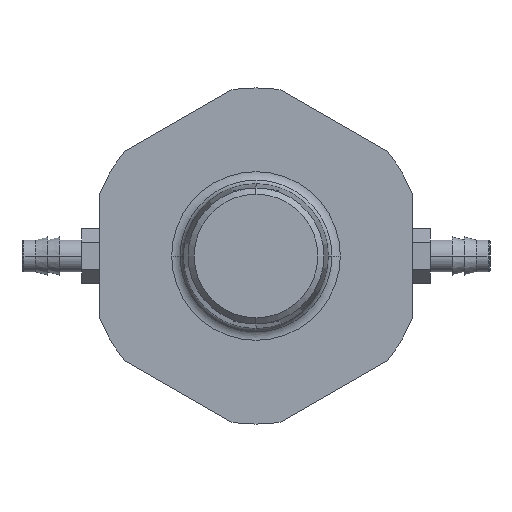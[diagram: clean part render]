
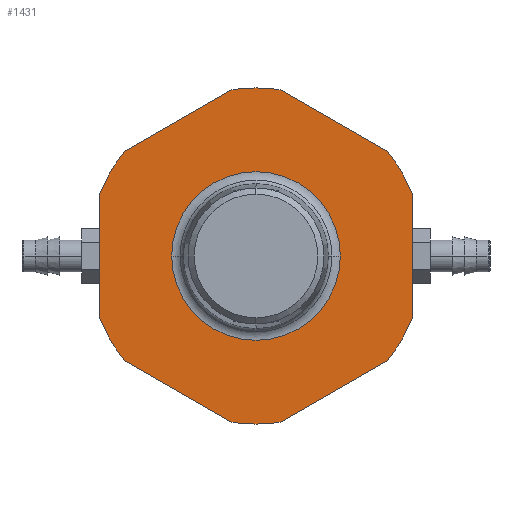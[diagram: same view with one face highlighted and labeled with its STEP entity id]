
A CAD part, left-side view. The second image highlights one B-rep face of the part: STEP entity #1431.
In plain terms, the highlighted planar face has unit normal (-1, 0, 0).
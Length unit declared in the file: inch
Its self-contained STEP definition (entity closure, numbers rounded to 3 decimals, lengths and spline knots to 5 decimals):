
#965=CARTESIAN_POINT('',(-2.875,0.,0.));
#966=DIRECTION('',(-1.,0.,0.));
#967=DIRECTION('',(0.,0.143,-0.99));
#968=AXIS2_PLACEMENT_3D('',#965,#966,#967);
#970=DIRECTION('',(0.,-0.866,-0.5));
#971=VECTOR('',#970,0.64952);
#972=CARTESIAN_POINT('',(-2.875,0.6875,-0.54127));
#973=LINE('',#972,#971);
#974=CARTESIAN_POINT('',(-2.875,0.,0.));
#975=DIRECTION('',(-1.,0.,0.));
#976=DIRECTION('',(0.,0.866,-0.5));
#977=AXIS2_PLACEMENT_3D('',#974,#975,#976);
#979=CARTESIAN_POINT('',(-2.875,0.,0.));
#980=DIRECTION('',(-1.,0.,0.));
#981=DIRECTION('',(0.,0.929,-0.371));
#982=AXIS2_PLACEMENT_3D('',#979,#980,#981);
#984=DIRECTION('',(0.,0.,-1.));
#985=VECTOR('',#984,0.64952);
#986=CARTESIAN_POINT('',(-2.875,0.8125,0.32476));
#987=LINE('',#986,#985);
#988=CARTESIAN_POINT('',(-2.875,0.,0.));
#989=DIRECTION('',(-1.,0.,0.));
#990=DIRECTION('',(0.,0.866,0.5));
#991=AXIS2_PLACEMENT_3D('',#988,#989,#990);
#993=CARTESIAN_POINT('',(-2.875,0.,0.));
#994=DIRECTION('',(-1.,0.,0.));
#995=DIRECTION('',(0.,0.786,0.619));
#996=AXIS2_PLACEMENT_3D('',#993,#994,#995);
#998=DIRECTION('',(0.,0.866,-0.5));
#999=VECTOR('',#998,0.64952);
#1000=CARTESIAN_POINT('',(-2.875,0.125,0.86603));
#1001=LINE('',#1000,#999);
#1002=CARTESIAN_POINT('',(-2.875,0.,0.));
#1003=DIRECTION('',(-1.,0.,0.));
#1004=DIRECTION('',(0.,0.,1.));
#1005=AXIS2_PLACEMENT_3D('',#1002,#1003,#1004);
#1007=CARTESIAN_POINT('',(-2.875,0.,0.));
#1008=DIRECTION('',(-1.,0.,0.));
#1009=DIRECTION('',(0.,-0.143,0.99));
#1010=AXIS2_PLACEMENT_3D('',#1007,#1008,#1009);
#1012=DIRECTION('',(0.,0.866,0.5));
#1013=VECTOR('',#1012,0.64952);
#1014=CARTESIAN_POINT('',(-2.875,-0.6875,0.54127));
#1015=LINE('',#1014,#1013);
#1016=CARTESIAN_POINT('',(-2.875,0.,0.));
#1017=DIRECTION('',(-1.,0.,0.));
#1018=DIRECTION('',(0.,-0.866,0.5));
#1019=AXIS2_PLACEMENT_3D('',#1016,#1017,#1018);
#1021=CARTESIAN_POINT('',(-2.875,0.,0.));
#1022=DIRECTION('',(-1.,0.,0.));
#1023=DIRECTION('',(0.,-0.929,0.371));
#1024=AXIS2_PLACEMENT_3D('',#1021,#1022,#1023);
#1026=DIRECTION('',(0.,0.,1.));
#1027=VECTOR('',#1026,0.64952);
#1028=CARTESIAN_POINT('',(-2.875,-0.8125,-0.32476));
#1029=LINE('',#1028,#1027);
#1030=CARTESIAN_POINT('',(-2.875,0.,0.));
#1031=DIRECTION('',(-1.,0.,0.));
#1032=DIRECTION('',(0.,-0.866,-0.5));
#1033=AXIS2_PLACEMENT_3D('',#1030,#1031,#1032);
#1035=CARTESIAN_POINT('',(-2.875,0.,0.));
#1036=DIRECTION('',(-1.,0.,0.));
#1037=DIRECTION('',(0.,-0.786,-0.619));
#1038=AXIS2_PLACEMENT_3D('',#1035,#1036,#1037);
#1040=DIRECTION('',(0.,-0.866,0.5));
#1041=VECTOR('',#1040,0.64952);
#1042=CARTESIAN_POINT('',(-2.875,-0.125,-0.86603));
#1043=LINE('',#1042,#1041);
#1044=CARTESIAN_POINT('',(-2.875,0.,0.));
#1045=DIRECTION('',(-1.,0.,0.));
#1046=DIRECTION('',(0.,0.,-1.));
#1047=AXIS2_PLACEMENT_3D('',#1044,#1045,#1046);
#1049=CARTESIAN_POINT('',(-2.875,0.,0.));
#1050=DIRECTION('',(1.,0.,0.));
#1051=DIRECTION('',(0.,0.,1.));
#1052=AXIS2_PLACEMENT_3D('',#1049,#1050,#1051);
#1054=CARTESIAN_POINT('',(-2.875,0.,0.));
#1055=DIRECTION('',(1.,0.,0.));
#1056=DIRECTION('',(0.,1.,0.));
#1057=AXIS2_PLACEMENT_3D('',#1054,#1055,#1056);
#1059=CARTESIAN_POINT('',(-2.875,0.,0.));
#1060=DIRECTION('',(1.,0.,0.));
#1061=DIRECTION('',(0.,-1.,0.));
#1062=AXIS2_PLACEMENT_3D('',#1059,#1060,#1061);
#1282=CARTESIAN_POINT('',(-2.875,0.,-0.875));
#1283=CARTESIAN_POINT('',(-2.875,-0.125,-0.86603));
#1284=VERTEX_POINT('',#1282);
#1285=VERTEX_POINT('',#1283);
#1286=CARTESIAN_POINT('',(-2.875,0.125,-0.86603));
#1287=VERTEX_POINT('',#1286);
#1292=CARTESIAN_POINT('',(-2.875,-0.6875,-0.54127));
#1293=VERTEX_POINT('',#1292);
#1294=CARTESIAN_POINT('',(-2.875,0.6875,-0.54127));
#1295=VERTEX_POINT('',#1294);
#1300=CARTESIAN_POINT('',(-2.875,-0.75777,-0.4375));
#1301=CARTESIAN_POINT('',(-2.875,-0.8125,-0.32476));
#1302=VERTEX_POINT('',#1300);
#1303=VERTEX_POINT('',#1301);
#1304=CARTESIAN_POINT('',(-2.875,0.75777,-0.4375));
#1305=VERTEX_POINT('',#1304);
#1306=CARTESIAN_POINT('',(-2.875,0.8125,-0.32476));
#1307=VERTEX_POINT('',#1306);
#1314=CARTESIAN_POINT('',(-2.875,-0.8125,0.32476));
#1315=VERTEX_POINT('',#1314);
#1316=CARTESIAN_POINT('',(-2.875,0.8125,0.32476));
#1317=VERTEX_POINT('',#1316);
#1324=CARTESIAN_POINT('',(-2.875,-0.75777,0.4375));
#1325=CARTESIAN_POINT('',(-2.875,-0.6875,0.54127));
#1326=VERTEX_POINT('',#1324);
#1327=VERTEX_POINT('',#1325);
#1328=CARTESIAN_POINT('',(-2.875,0.75777,0.4375));
#1329=VERTEX_POINT('',#1328);
#1330=CARTESIAN_POINT('',(-2.875,0.6875,0.54127));
#1331=VERTEX_POINT('',#1330);
#1338=CARTESIAN_POINT('',(-2.875,-0.125,0.86603));
#1339=VERTEX_POINT('',#1338);
#1340=CARTESIAN_POINT('',(-2.875,0.125,0.86603));
#1341=VERTEX_POINT('',#1340);
#1348=CARTESIAN_POINT('',(-2.875,0.,0.875));
#1349=VERTEX_POINT('',#1348);
#1354=CARTESIAN_POINT('',(-2.875,0.43896,0.));
#1356=VERTEX_POINT('',#1354);
#1360=CARTESIAN_POINT('',(-2.875,-0.43896,0.));
#1361=VERTEX_POINT('',#1360);
#1366=CARTESIAN_POINT('',(-2.875,0.,0.43896));
#1367=VERTEX_POINT('',#1366);
#1380=CARTESIAN_POINT('',(-2.875,0.,0.));
#1381=DIRECTION('',(-1.,0.,0.));
#1382=DIRECTION('',(0.,0.,1.));
#1383=AXIS2_PLACEMENT_3D('',#1380,#1381,#1382);
#1384=PLANE('',#1383);
#1386=ORIENTED_EDGE('',*,*,#1385,.F.);
#1388=ORIENTED_EDGE('',*,*,#1387,.F.);
#1390=ORIENTED_EDGE('',*,*,#1389,.F.);
#1392=ORIENTED_EDGE('',*,*,#1391,.F.);
#1394=ORIENTED_EDGE('',*,*,#1393,.F.);
#1396=ORIENTED_EDGE('',*,*,#1395,.F.);
#1398=ORIENTED_EDGE('',*,*,#1397,.F.);
#1400=ORIENTED_EDGE('',*,*,#1399,.F.);
#1402=ORIENTED_EDGE('',*,*,#1401,.F.);
#1404=ORIENTED_EDGE('',*,*,#1403,.F.);
#1406=ORIENTED_EDGE('',*,*,#1405,.F.);
#1408=ORIENTED_EDGE('',*,*,#1407,.F.);
#1410=ORIENTED_EDGE('',*,*,#1409,.F.);
#1412=ORIENTED_EDGE('',*,*,#1411,.F.);
#1414=ORIENTED_EDGE('',*,*,#1413,.F.);
#1416=ORIENTED_EDGE('',*,*,#1415,.F.);
#1418=ORIENTED_EDGE('',*,*,#1417,.F.);
#1420=ORIENTED_EDGE('',*,*,#1419,.F.);
#1421=EDGE_LOOP('',(#1386,#1388,#1390,#1392,#1394,#1396,#1398,#1400,#1402,#1404,
#1406,#1408,#1410,#1412,#1414,#1416,#1418,#1420));
#1422=FACE_OUTER_BOUND('',#1421,.F.);
#1424=ORIENTED_EDGE('',*,*,#1423,.F.);
#1426=ORIENTED_EDGE('',*,*,#1425,.F.);
#1428=ORIENTED_EDGE('',*,*,#1427,.F.);
#1429=EDGE_LOOP('',(#1424,#1426,#1428));
#1430=FACE_BOUND('',#1429,.F.);
#969=CIRCLE('',#968,0.875);
#978=CIRCLE('',#977,0.875);
#983=CIRCLE('',#982,0.875);
#992=CIRCLE('',#991,0.875);
#997=CIRCLE('',#996,0.875);
#1006=CIRCLE('',#1005,0.875);
#1011=CIRCLE('',#1010,0.875);
#1020=CIRCLE('',#1019,0.875);
#1025=CIRCLE('',#1024,0.875);
#1034=CIRCLE('',#1033,0.875);
#1039=CIRCLE('',#1038,0.875);
#1048=CIRCLE('',#1047,0.875);
#1053=CIRCLE('',#1052,0.43896);
#1058=CIRCLE('',#1057,0.43896);
#1063=CIRCLE('',#1062,0.43896);
#1385=EDGE_CURVE('',#1287,#1284,#969,.T.);
#1387=EDGE_CURVE('',#1295,#1287,#973,.T.);
#1389=EDGE_CURVE('',#1305,#1295,#978,.T.);
#1391=EDGE_CURVE('',#1307,#1305,#983,.T.);
#1393=EDGE_CURVE('',#1317,#1307,#987,.T.);
#1395=EDGE_CURVE('',#1329,#1317,#992,.T.);
#1397=EDGE_CURVE('',#1331,#1329,#997,.T.);
#1399=EDGE_CURVE('',#1341,#1331,#1001,.T.);
#1401=EDGE_CURVE('',#1349,#1341,#1006,.T.);
#1403=EDGE_CURVE('',#1339,#1349,#1011,.T.);
#1405=EDGE_CURVE('',#1327,#1339,#1015,.T.);
#1407=EDGE_CURVE('',#1326,#1327,#1020,.T.);
#1409=EDGE_CURVE('',#1315,#1326,#1025,.T.);
#1411=EDGE_CURVE('',#1303,#1315,#1029,.T.);
#1413=EDGE_CURVE('',#1302,#1303,#1034,.T.);
#1415=EDGE_CURVE('',#1293,#1302,#1039,.T.);
#1417=EDGE_CURVE('',#1285,#1293,#1043,.T.);
#1419=EDGE_CURVE('',#1284,#1285,#1048,.T.);
#1423=EDGE_CURVE('',#1367,#1361,#1053,.T.);
#1425=EDGE_CURVE('',#1356,#1367,#1058,.T.);
#1427=EDGE_CURVE('',#1361,#1356,#1063,.T.);
#1431=ADVANCED_FACE('',(#1422,#1430),#1384,.T.);
